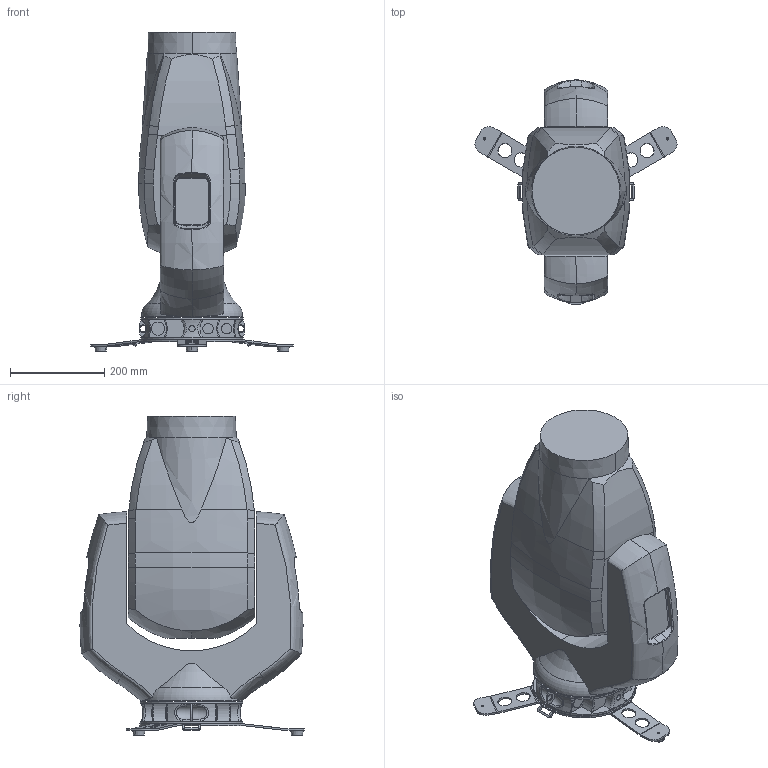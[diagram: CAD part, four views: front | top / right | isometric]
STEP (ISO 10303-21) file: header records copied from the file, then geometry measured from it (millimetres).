
FILE_DESCRIPTION((''),'2;1');
FILE_NAME('GLP-21956_ASM','2025-01-23T12:40:02',('LeovomKolke'),(''),'CREO PARAMETRIC BY PTC INC, 2024133','CREO PARAMETRIC BY PTC INC, 2024133','');
FILE_SCHEMA(('AUTOMOTIVE_DESIGN { 1 0 10303 214 1 1 1 1 }'));
Length unit declared in the file: millimetre
Products named in the file (5): GLP-16343; GLP-16246; GLP-16247; GLP-17027; GLP-21956_ASM
Assembly tree (4 placements, depth 2):
  GLP-21956_ASM
    GLP-16343
    GLP-16246
    GLP-16247
    GLP-17027
Bounding box: 428.62 x 475.09 x 677.7 mm (x, y, z)
Volume: 35163589.7 mm3; surface area: 1130525.8 mm2
Topology: 4 solids, 7 shells, 399 faces, 1081 edges, 713 vertices
Faces by surface type: cylinder 145, plane 114, bspline 58, cone 30, torus 30, revolution 16, extrusion 4, sphere 2
Entity records: 23874 total; most frequent: CARTESIAN_POINT 11081, DIRECTION 2232, ORIENTED_EDGE 2058, EDGE_CURVE 1035, AXIS2_PLACEMENT_3D 857, VERTEX_POINT 666, VECTOR 487, LINE 483
